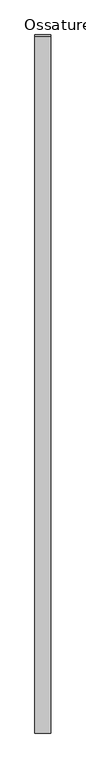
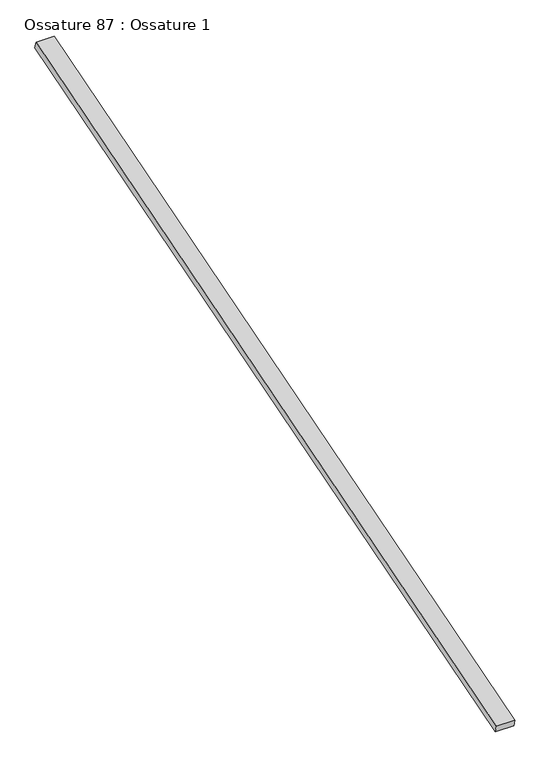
"""IFC4 building model written with IfcOpenShell, lengths in millimetres: beam geometry, Ossature 87 : Ossature 1."""

import ifcopenshell
import ifcopenshell.guid

model = None  # the IFC model being written
_history = None  # IfcOwnerHistory: only IFC2X3 demands one
_inside = {}  # id of a spatial element -> (the spatial element, [elements in it])
_under = {}  # id of a project, library or spatial element -> (it, [spatial elements below it])
_declared = {}  # id of a project -> (the project, [libraries it declares])
_typed = {}  # id of a type object -> (the type object, [elements of that type])
_made_of = {}  # id of a material, layer set ... -> (it, [elements and type objects made of it])


def new_model(schema):
    """Start an empty IFC model of exactly this schema.

    Asked for "IFC4X3", IfcOpenShell would pick the latest addendum, in which some entities
    have other attributes; the version numbers below select the first issue.
    IFC2X3 requires an IfcOwnerHistory on every rooted entity: one is made here for all.
    """
    global model, _history
    if schema == "IFC4X3":
        model = ifcopenshell.file(schema_version=(4, 3, 0, 0))
    else:
        model = ifcopenshell.file(schema=schema)
    _inside.clear()
    _under.clear()
    _declared.clear()
    _typed.clear()
    _made_of.clear()
    _history = None
    if model.schema == "IFC2X3":
        org = make("IfcOrganization", Name="unknown")
        user = make(
            "IfcPersonAndOrganization",
            ThePerson=make("IfcPerson", FamilyName="unknown"),
            TheOrganization=org,
        )
        app = make(
            "IfcApplication",
            ApplicationDeveloper=org,
            Version="unknown",
            ApplicationFullName="unknown",
            ApplicationIdentifier="unknown",
        )
        _history = make(
            "IfcOwnerHistory",
            OwningUser=user,
            OwningApplication=app,
            ChangeAction="ADDED",
            CreationDate=0,
        )
    return model


def make(cls, **values):
    """One entity of the class cls with the attributes given. An attribute that is None is left unset."""
    return model.create_entity(
        cls, **{name: value for name, value in values.items() if value is not None}
    )


def rooted(cls, **values):
    """An entity with a GlobalId (a new one), such as an element, a storey or a relation."""
    return make(cls, GlobalId=ifcopenshell.guid.new(), OwnerHistory=_history, **values)


def si_unit(unit_type, name, prefix=None):
    """IfcSIUnit, for example si_unit("LENGTHUNIT", "METRE", prefix="MILLI")."""
    return make("IfcSIUnit", UnitType=unit_type, Prefix=prefix, Name=name)


def assignment(units):
    """IfcUnitAssignment: the units of a project."""
    return None if units is None else make("IfcUnitAssignment", Units=units)


def point(xyz):
    """IfcCartesianPoint."""
    return None if xyz is None else make("IfcCartesianPoint", Coordinates=xyz)


def direction(xyz):
    """IfcDirection."""
    return None if xyz is None else make("IfcDirection", DirectionRatios=xyz)


def frame(location, z_axis=None, x_axis=None):
    """IfcAxis2Placement3D, a coordinate frame: its origin and axes. An axis left out is left unset."""
    return make(
        "IfcAxis2Placement3D",
        Location=point(location),
        Axis=direction(z_axis),
        RefDirection=direction(x_axis),
    )


def origin():
    """The frame at (0, 0, 0) with its axes left unset."""
    return frame((0.0, 0.0, 0.0))


def place(relative_to, where):
    """IfcLocalPlacement: puts the frame where relative to a parent placement (None: the world)."""
    return make(
        "IfcLocalPlacement", PlacementRelTo=relative_to, RelativePlacement=where
    )


def context(
    kind, dimensions, precision=None, world=None, true_north=None, identifier=None
):
    """IfcGeometricRepresentationContext, for example the 3D "Model" context."""
    return make(
        "IfcGeometricRepresentationContext",
        ContextIdentifier=identifier,
        ContextType=kind,
        CoordinateSpaceDimension=dimensions,
        Precision=precision,
        WorldCoordinateSystem=world,
        TrueNorth=true_north,
    )


def project(units=None, contexts=None):
    """IfcProject with its units and contexts."""
    return rooted(
        "IfcProject",
        Name="project",
        RepresentationContexts=contexts,
        UnitsInContext=assignment(units),
    )


def spatial(cls, under=None, at=None, **own):
    """A site, building, storey or space (cls), placed at a placement, below another one or the project."""
    s = rooted(cls, ObjectPlacement=at, **own)
    if under is not None:
        _under.setdefault(under.id(), (under, []))[1].append(s)
    return s


def polyline(points):
    """IfcPolyline through the points."""
    return make("IfcPolyline", Points=[point(p) for p in points])


def outline(outer, holes=None, kind="AREA"):
    """IfcArbitraryClosedProfileDef: a profile drawn as a closed curve; with holes, ...WithVoids."""
    if holes is None:
        return make("IfcArbitraryClosedProfileDef", ProfileType=kind, OuterCurve=outer)
    return make(
        "IfcArbitraryProfileDefWithVoids",
        ProfileType=kind,
        OuterCurve=outer,
        InnerCurves=holes,
    )


def extrude(swept, where, along, depth):
    """IfcExtrudedAreaSolid: the profile swept, set in the frame where, extruded along a direction by depth."""
    return make(
        "IfcExtrudedAreaSolid",
        SweptArea=swept,
        Position=where,
        ExtrudedDirection=direction(along),
        Depth=depth,
    )


def shape(context_of_items, identifier, shape_type, items):
    """IfcShapeRepresentation: the items that make up one representation, for example the "Body"."""
    return make(
        "IfcShapeRepresentation",
        ContextOfItems=context_of_items,
        RepresentationIdentifier=identifier,
        RepresentationType=shape_type,
        Items=items,
    )


def source(mapping_origin, context_of_items, identifier, shape_type, items):
    """IfcRepresentationMap: a shape defined once, which mapped items show again and again."""
    return make(
        "IfcRepresentationMap",
        MappingOrigin=mapping_origin,
        MappedRepresentation=shape(context_of_items, identifier, shape_type, items),
    )


def transform(
    local_origin,
    x_axis=None,
    y_axis=None,
    z_axis=None,
    scale=None,
    scale2=None,
    scale3=None,
    uniform=True,
):
    """IfcCartesianTransformationOperator3D, or its non-uniform kind. x_axis, y_axis, z_axis: its Axis1, 2, 3."""
    if uniform:
        return make(
            "IfcCartesianTransformationOperator3D",
            Axis1=direction(x_axis),
            Axis2=direction(y_axis),
            LocalOrigin=point(local_origin),
            Scale=scale,
            Axis3=direction(z_axis),
        )
    return make(
        "IfcCartesianTransformationOperator3DnonUniform",
        Axis1=direction(x_axis),
        Axis2=direction(y_axis),
        LocalOrigin=point(local_origin),
        Scale=scale,
        Axis3=direction(z_axis),
        Scale2=scale2,
        Scale3=scale3,
    )


def mapped(mapping_source, mapping_target):
    """IfcMappedItem: shows the shape of a source again, moved by a transform."""
    return make(
        "IfcMappedItem", MappingSource=mapping_source, MappingTarget=mapping_target
    )


def made_of(thing, what):
    """Note that an element or type object is made of a material, layer set ...; save() writes the relation."""
    if what is not None:
        _made_of.setdefault(what.id(), (what, []))[1].append(thing)
    return thing


def element(
    cls,
    number,
    at=None,
    inside=None,
    cuts=None,
    type_object=None,
    material=None,
    context=None,
    identifier="Body",
    shape_type=None,
    held_by="IfcProductDefinitionShape",
    body=None,
    shapes=None,
    **own,
):
    """One element of the class cls, such as IfcWall. Its Tag is "e" and its number.

    at: its placement. inside: the storey or other place that contains it. cuts: it is an
    opening in that element (IfcRelVoidsElement). A single representation is given by context,
    identifier, shape_type and body (its items); several are given by shapes. held_by: the class
    of the entity that holds the representations. save() writes the other relations.
    """
    e = rooted(cls, Tag="e%d" % number, ObjectPlacement=at, **own)
    if body is not None:
        shapes = [shape(context, identifier, shape_type, body)]
    if shapes is not None:
        e.Representation = make(held_by, Representations=shapes)
    if inside is not None:
        _inside.setdefault(inside.id(), (inside, []))[1].append(e)
    if cuts is not None:
        rooted(
            "IfcRelVoidsElement", RelatingBuildingElement=cuts, RelatedOpeningElement=e
        )
    if type_object is not None:
        _typed.setdefault(type_object.id(), (type_object, []))[1].append(e)
    return made_of(e, material)


def aggregate(whole, parts):
    """IfcRelAggregates: a whole, such as a stair, and the parts it consists of."""
    return rooted("IfcRelAggregates", RelatingObject=whole, RelatedObjects=parts)


def save(model, path):
    """Write the relations noted so far, then the file.

    IfcRelAggregates (storeys below a building ...), IfcRelContainedInSpatialStructure (elements
    in a storey), IfcRelDefinesByType, IfcRelAssociatesMaterial and IfcRelDeclares: one each for
    every whole, place, type object, material and project.
    """
    for whole, parts in _under.values():
        aggregate(whole, parts)
    for where, things in _inside.values():
        rooted(
            "IfcRelContainedInSpatialStructure",
            RelatedElements=things,
            RelatingStructure=where,
        )
    for kind, things in _typed.values():
        rooted("IfcRelDefinesByType", RelatedObjects=things, RelatingType=kind)
    for what, things in _made_of.values():
        rooted("IfcRelAssociatesMaterial", RelatedObjects=things, RelatingMaterial=what)
    for by, libraries in _declared.values():
        rooted("IfcRelDeclares", RelatingContext=by, RelatedDefinitions=libraries)
    model.write(path)


def ossature_87_ossature_1_5b8949ff(model_context):
    return source(origin(), model_context, "Body", "SweptSolid", [
        extrude(outline(polyline([(0.0, 0.0), (0.0, -4543.0299679), (-100.0, -4543.0299679), (-100.0, 0.0), (0.0, 0.0)])), frame((21004.2466393, -833.3913565, 8153.6336115), z_axis=(0.0, -0.28734788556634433, 0.9578262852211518), x_axis=(-1.0, 0.0, 0.0)), (0.0, 0.0, 1.0), 40.0),
    ])


if __name__ == "__main__":
    model = new_model("IFC4")
    model_context = context("Model", 3, world=origin())
    ifc_project = project(units=[si_unit("LENGTHUNIT", "METRE", prefix="MILLI")], contexts=[model_context])
    site = spatial("IfcSite", under=ifc_project)
    building = spatial("IfcBuilding", under=site)
    placement = place(None, origin())
    ossature_87_ossature_1_shape = ossature_87_ossature_1_5b8949ff(model_context)
    element("IfcBeam", 1, ObjectType="Ossature 87 : Ossature 1", at=placement, inside=building, context=model_context, shape_type="MappedRepresentation", body=[
        mapped(ossature_87_ossature_1_shape, transform((0.0, 0.0, 0.0), x_axis=(1.0, 0.0, 0.0), y_axis=(0.0, 1.0, 0.0), z_axis=(0.0, 0.0, 1.0))),
    ])
    save(model, "model.ifc")
